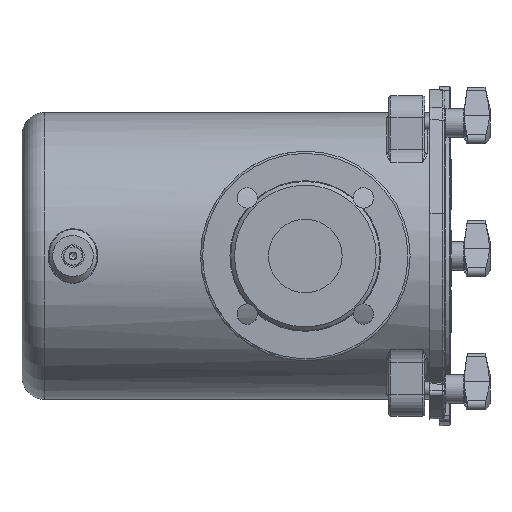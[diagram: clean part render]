
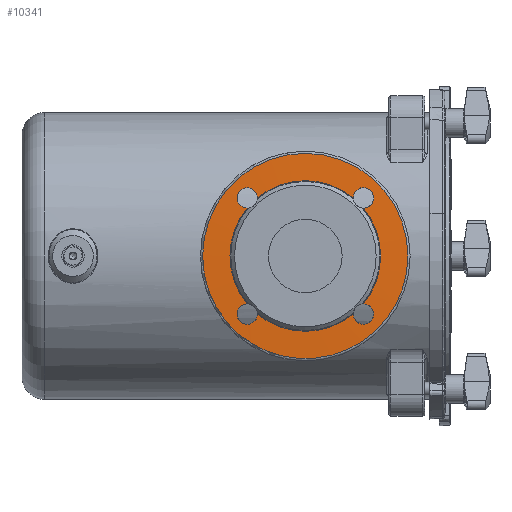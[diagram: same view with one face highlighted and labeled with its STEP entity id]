
A CAD part, left-side view. The second image highlights one B-rep face of the part: STEP entity #10341.
In plain terms, the highlighted conical face has half-angle 88 degrees and reference radius 92.5 mm.
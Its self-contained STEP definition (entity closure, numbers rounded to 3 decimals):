
#718=CONICAL_SURFACE('',#10851,92.5,1.536);
#789=B_SPLINE_CURVE_WITH_KNOTS('',3,(#13390,#13391,#13392,#13393,#13394,
#13395,#13396,#13397,#13398,#13399,#13400),.UNSPECIFIED.,.F.,.F.,(4,1,1,
1,1,1,1,1,4),(0.,0.005,0.011,
0.016,0.021,0.026,0.032,
0.037,0.042),.UNSPECIFIED.);
#790=B_SPLINE_CURVE_WITH_KNOTS('',3,(#13401,#13402,#13403,#13404,#13405,
#13406,#13407,#13408,#13409,#13410,#13411),.UNSPECIFIED.,.F.,.F.,(4,1,1,
1,1,1,1,1,4),(0.,0.005,0.011,
0.016,0.021,0.026,0.032,
0.037,0.042),.UNSPECIFIED.);
#791=B_SPLINE_CURVE_WITH_KNOTS('',3,(#13412,#13413,#13414,#13415,#13416,
#13417,#13418,#13419,#13420,#13421,#13422),.UNSPECIFIED.,.F.,.F.,(4,1,1,
1,1,1,1,1,4),(0.,0.005,0.011,
0.016,0.021,0.026,0.032,
0.037,0.042),.UNSPECIFIED.);
#792=B_SPLINE_CURVE_WITH_KNOTS('',3,(#13426,#13427,#13428,#13429,#13430,
#13431,#13432,#13433,#13434,#13435,#13436),.UNSPECIFIED.,.F.,.F.,(4,1,1,
1,1,1,1,1,4),(0.,0.005,0.011,
0.016,0.021,0.026,0.032,
0.037,0.042),.UNSPECIFIED.);
#1437=ORIENTED_EDGE('',*,*,#3528,.T.);
#1438=ORIENTED_EDGE('',*,*,#3562,.T.);
#1439=ORIENTED_EDGE('',*,*,#3563,.T.);
#1440=ORIENTED_EDGE('',*,*,#3561,.T.);
#1441=ORIENTED_EDGE('',*,*,#3564,.T.);
#1442=ORIENTED_EDGE('',*,*,#3555,.T.);
#1443=ORIENTED_EDGE('',*,*,#3565,.T.);
#1444=ORIENTED_EDGE('',*,*,#3566,.T.);
#1445=ORIENTED_EDGE('',*,*,#3567,.T.);
#3528=EDGE_CURVE('',#4598,#4598,#5293,.T.);
#3555=EDGE_CURVE('',#4618,#4616,#5303,.F.);
#3561=EDGE_CURVE('',#4621,#4623,#5306,.F.);
#3562=EDGE_CURVE('',#4624,#4625,#5307,.F.);
#3563=EDGE_CURVE('',#4625,#4621,#789,.T.);
#3564=EDGE_CURVE('',#4623,#4618,#790,.T.);
#3565=EDGE_CURVE('',#4616,#4626,#791,.T.);
#3566=EDGE_CURVE('',#4626,#4627,#5308,.F.);
#3567=EDGE_CURVE('',#4627,#4624,#792,.T.);
#4598=VERTEX_POINT('',#13218);
#4616=VERTEX_POINT('',#13361);
#4618=VERTEX_POINT('',#13364);
#4621=VERTEX_POINT('',#13377);
#4623=VERTEX_POINT('',#13384);
#4624=VERTEX_POINT('',#13388);
#4625=VERTEX_POINT('',#13389);
#4626=VERTEX_POINT('',#13423);
#4627=VERTEX_POINT('',#13425);
#5293=CIRCLE('',#10828,90.57);
#5303=CIRCLE('',#10846,66.471);
#5306=CIRCLE('',#10850,66.471);
#5307=CIRCLE('',#10852,66.471);
#5308=CIRCLE('',#10853,66.471);
#5658=EDGE_LOOP('',(#1437));
#5659=EDGE_LOOP('',(#1438,#1439,#1440,#1441,#1442,#1443,#1444,#1445));
#6259=FACE_BOUND('',#5658,.T.);
#6260=FACE_BOUND('',#5659,.T.);
#10341=ADVANCED_FACE('',(#6259,#6260),#718,.T.);
#10828=AXIS2_PLACEMENT_3D('',#13217,#11547,#11548);
#10846=AXIS2_PLACEMENT_3D('',#13363,#11583,#11584);
#10850=AXIS2_PLACEMENT_3D('',#13385,#11591,#11592);
#10851=AXIS2_PLACEMENT_3D('',#13386,#11593,#11594);
#10852=AXIS2_PLACEMENT_3D('',#13387,#11595,#11596);
#10853=AXIS2_PLACEMENT_3D('',#13424,#11597,#11598);
#11547=DIRECTION('',(-1.,0.,0.));
#11548=DIRECTION('',(0.,-1.,0.));
#11583=DIRECTION('',(-1.,0.,0.));
#11584=DIRECTION('',(0.,-1.,0.));
#11591=DIRECTION('',(-1.,0.,0.));
#11592=DIRECTION('',(0.,-1.,0.));
#11593=DIRECTION('',(1.,0.,0.));
#11594=DIRECTION('',(0.,1.,0.));
#11595=DIRECTION('',(-1.,0.,0.));
#11596=DIRECTION('',(0.,-1.,0.));
#11597=DIRECTION('',(-1.,0.,0.));
#11598=DIRECTION('',(0.,-1.,0.));
#13217=CARTESIAN_POINT('',(-185.567,113.,0.));
#13218=CARTESIAN_POINT('',(-185.567,22.43,0.));
#13361=CARTESIAN_POINT('',(-186.409,61.697,-42.265));
#13363=CARTESIAN_POINT('',(-186.409,113.,0.));
#13364=CARTESIAN_POINT('',(-186.409,61.697,42.265));
#13377=CARTESIAN_POINT('',(-186.409,155.265,51.303));
#13384=CARTESIAN_POINT('',(-186.409,70.735,51.303));
#13385=CARTESIAN_POINT('',(-186.409,113.,0.));
#13386=CARTESIAN_POINT('',(-185.5,113.,0.));
#13387=CARTESIAN_POINT('',(-186.409,113.,0.));
#13388=CARTESIAN_POINT('',(-186.409,164.303,-42.265));
#13389=CARTESIAN_POINT('',(-186.409,164.303,42.265));
#13390=CARTESIAN_POINT('',(-186.409,164.303,42.265));
#13391=CARTESIAN_POINT('',(-186.361,166.084,42.273));
#13392=CARTESIAN_POINT('',(-186.241,169.573,43.352));
#13393=CARTESIAN_POINT('',(-186.053,173.083,47.632));
#13394=CARTESIAN_POINT('',(-185.917,173.613,53.136));
#13395=CARTESIAN_POINT('',(-185.868,171.008,58.004));
#13396=CARTESIAN_POINT('',(-185.917,166.139,60.613));
#13397=CARTESIAN_POINT('',(-186.053,160.634,60.083));
#13398=CARTESIAN_POINT('',(-186.241,156.354,56.577));
#13399=CARTESIAN_POINT('',(-186.361,155.273,53.084));
#13400=CARTESIAN_POINT('',(-186.409,155.265,51.303));
#13401=CARTESIAN_POINT('',(-186.409,70.735,51.303));
#13402=CARTESIAN_POINT('',(-186.361,70.727,53.084));
#13403=CARTESIAN_POINT('',(-186.241,69.648,56.573));
#13404=CARTESIAN_POINT('',(-186.053,65.368,60.083));
#13405=CARTESIAN_POINT('',(-185.917,59.864,60.613));
#13406=CARTESIAN_POINT('',(-185.868,54.996,58.008));
#13407=CARTESIAN_POINT('',(-185.917,52.387,53.139));
#13408=CARTESIAN_POINT('',(-186.053,52.917,47.634));
#13409=CARTESIAN_POINT('',(-186.241,56.423,43.354));
#13410=CARTESIAN_POINT('',(-186.361,59.916,42.273));
#13411=CARTESIAN_POINT('',(-186.409,61.697,42.265));
#13412=CARTESIAN_POINT('',(-186.409,61.697,-42.265));
#13413=CARTESIAN_POINT('',(-186.361,59.916,-42.273));
#13414=CARTESIAN_POINT('',(-186.241,56.427,-43.352));
#13415=CARTESIAN_POINT('',(-186.053,52.917,-47.632));
#13416=CARTESIAN_POINT('',(-185.917,52.387,-53.136));
#13417=CARTESIAN_POINT('',(-185.868,54.992,-58.004));
#13418=CARTESIAN_POINT('',(-185.917,59.861,-60.613));
#13419=CARTESIAN_POINT('',(-186.053,65.366,-60.083));
#13420=CARTESIAN_POINT('',(-186.241,69.646,-56.577));
#13421=CARTESIAN_POINT('',(-186.361,70.727,-53.084));
#13422=CARTESIAN_POINT('',(-186.409,70.735,-51.303));
#13423=CARTESIAN_POINT('',(-186.409,70.735,-51.303));
#13424=CARTESIAN_POINT('',(-186.409,113.,0.));
#13425=CARTESIAN_POINT('',(-186.409,155.265,-51.303));
#13426=CARTESIAN_POINT('',(-186.409,155.265,-51.303));
#13427=CARTESIAN_POINT('',(-186.361,155.273,-53.084));
#13428=CARTESIAN_POINT('',(-186.241,156.352,-56.573));
#13429=CARTESIAN_POINT('',(-186.053,160.632,-60.083));
#13430=CARTESIAN_POINT('',(-185.917,166.136,-60.613));
#13431=CARTESIAN_POINT('',(-185.868,171.004,-58.008));
#13432=CARTESIAN_POINT('',(-185.917,173.613,-53.139));
#13433=CARTESIAN_POINT('',(-186.053,173.083,-47.634));
#13434=CARTESIAN_POINT('',(-186.241,169.577,-43.354));
#13435=CARTESIAN_POINT('',(-186.361,166.084,-42.273));
#13436=CARTESIAN_POINT('',(-186.409,164.303,-42.265));
